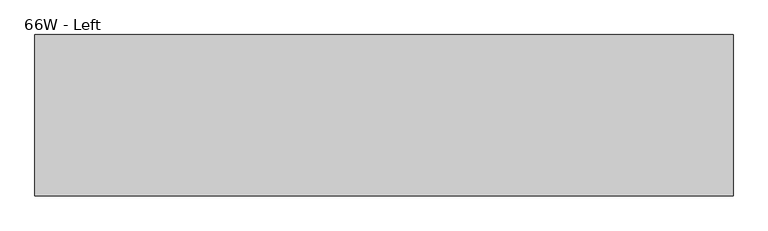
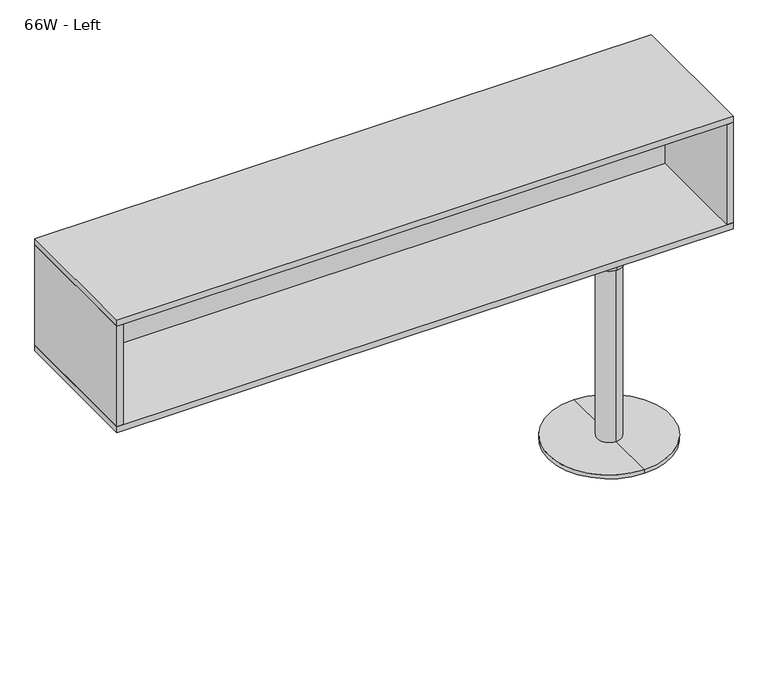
"""IFC4 building model written with IfcOpenShell, lengths in millimetres: furniture geometry, Steelcase - Duo Storage - For Use with Answer Junction - Tall Storage with Leg - Individual : 66W - Left."""

from ifc_helpers import new_model, si_unit, frame, origin, place, context, project, spatial, polyline, circle_curve, outline, extrude, source, transform, mapped, element, save
from ifc_brep_helpers import plane_surface, cylinder_surface, advanced_brep


def furniture_66w_left_0483f67a(model_context):
    return source(origin(), model_context, "Body", "SolidModel", [
        extrude(outline(polyline([(1960.8797287, 115.3159264), (20.32, 115.3159264), (20.32, 137.1599419), (1960.8797287, 137.1599419), (1960.8797287, 115.3159264)])), frame((0.0, 0.0, 779.2719806), z_axis=(0.0, 0.0, 1.0), x_axis=(1.0, 0.0, 0.0)), (0.0, 0.0, 1.0), 340.3600194),
        advanced_brep(
        [(1714.4997287, 196.1389534, 0.0), (1714.4997287, -196.1389534, 0.0), (1714.4997287, -196.1389534, 12.7), (1714.4997287, 196.1389534, 12.7), (1714.4997287, 0.0, 0.0), (1714.4997287, 41.4195882, 758.952), (1714.4997287, -41.4195882, 758.952), (1714.4997287, 0.0, 758.952), (1714.4997287, 41.4195882, 596.9), (1714.4997287, -41.4195882, 596.9), (1714.4997287, 38.1, 596.9), (1714.4997287, -38.1, 596.9), (1714.4997287, 38.1, 12.7), (1714.4997287, -38.1, 12.7)],
        [
            (0, 1, circle_curve(frame((1714.4997287, 0.0, 0.0), z_axis=(0.0, 0.0, 1.0), x_axis=(0.0, -1.0, 0.0)), 196.1389534)),
            (1, 2),
            (2, 3, circle_curve(frame((1714.4997287, 0.0, 12.7), z_axis=(0.0, 0.0, -1.0), x_axis=(0.0, -1.0, 0.0)), 196.1389534)),
            (3, 0),
            (1, 0, circle_curve(frame((1714.4997287, 0.0, 0.0), z_axis=(0.0, 0.0, 1.0), x_axis=(0.0, -1.0, 0.0)), 196.1389534)),
            (3, 2, circle_curve(frame((1714.4997287, 0.0, 12.7), z_axis=(0.0, 0.0, -1.0), x_axis=(0.0, -1.0, 0.0)), 196.1389534)),
            (4, 1),
            (0, 4),
            (5, 6, circle_curve(frame((1714.4997287, 0.0, 758.952), z_axis=(0.0, 0.0, 1.0), x_axis=(0.0, -1.0, 0.0)), 41.4195882)),
            (6, 7),
            (7, 5),
            (6, 5, circle_curve(frame((1714.4997287, 0.0, 758.952), z_axis=(0.0, 0.0, 1.0), x_axis=(0.0, -1.0, 0.0)), 41.4195882)),
            (8, 9, circle_curve(frame((1714.4997287, 0.0, 596.9), z_axis=(0.0, 0.0, 1.0), x_axis=(0.0, -1.0, 0.0)), 41.4195882)),
            (9, 6),
            (5, 8),
            (9, 8, circle_curve(frame((1714.4997287, 0.0, 596.9), z_axis=(0.0, 0.0, 1.0), x_axis=(0.0, -1.0, 0.0)), 41.4195882)),
            (10, 11, circle_curve(frame((1714.4997287, 0.0, 596.9), z_axis=(0.0, 0.0, 1.0), x_axis=(0.0, -1.0, 0.0)), 38.1)),
            (11, 9),
            (8, 10),
            (11, 10, circle_curve(frame((1714.4997287, 0.0, 596.9), z_axis=(0.0, 0.0, 1.0), x_axis=(0.0, -1.0, 0.0)), 38.1)),
            (12, 13, circle_curve(frame((1714.4997287, 0.0, 12.7), z_axis=(0.0, 0.0, 1.0), x_axis=(0.0, -1.0, 0.0)), 38.1)),
            (13, 11),
            (10, 12),
            (13, 12, circle_curve(frame((1714.4997287, 0.0, 12.7), z_axis=(0.0, 0.0, 1.0), x_axis=(0.0, -1.0, 0.0)), 38.1)),
            (2, 13),
            (12, 3),
        ],
        [
            cylinder_surface(frame((1714.4997287, 0.0, 581.025), z_axis=(0.0, 0.0, -1.0), x_axis=(0.0, -1.0, 0.0)), 196.1389534),
            plane_surface(frame((1714.4997287, 0.0, 0.0), z_axis=(0.0, 0.0, -1.0), x_axis=(0.0, -1.0, 0.0))),
            plane_surface(frame((1714.4997287, 0.0, 758.952), z_axis=(0.0, 0.0, 1.0), x_axis=(0.0, -1.0, 0.0))),
            cylinder_surface(frame((1714.4997287, 0.0, 581.025), z_axis=(0.0, 0.0, -1.0), x_axis=(0.0, -1.0, 0.0)), 41.4195882),
            plane_surface(frame((1714.4997287, 0.0, 596.9), z_axis=(0.0, 0.0, -1.0), x_axis=(0.0, -1.0, 0.0))),
            cylinder_surface(frame((1714.4997287, 0.0, 581.025), z_axis=(0.0, 0.0, -1.0), x_axis=(0.0, -1.0, 0.0)), 38.1),
            plane_surface(frame((1714.4997287, 0.0, 12.7), z_axis=(0.0, 0.0, 1.0), x_axis=(0.0, -1.0, 0.0))),
        ],
        [
            (0, [[1, 2, 3, 4]]),
            (0, [[5, -4, 6, -2]]),
            (1, [[7, -1, 8]]),
            (1, [[-8, -5, -7]]),
            (2, [[9, 10, 11]]),
            (2, [[12, -11, -10]]),
            (3, [[13, 14, -9, 15]]),
            (3, [[16, -15, -12, -14]]),
            (4, [[17, 18, -13, 19]]),
            (4, [[20, -19, -16, -18]]),
            (5, [[21, 22, -17, 23]]),
            (5, [[24, -23, -20, -22]]),
            (6, [[-3, 25, -21, 26]]),
            (6, [[-6, -26, -24, -25]]),
        ],
    ),
        extrude(outline(polyline([(1981.2, 228.6), (1981.2, -228.6), (1960.8797287, -228.6), (1960.8797287, 228.6), (1981.2, 228.6)])), frame((0.0, 0.0, 779.2719806), z_axis=(0.0, 0.0, 1.0), x_axis=(1.0, 0.0, 0.0)), (0.0, 0.0, 1.0), 340.3600194),
        extrude(outline(polyline([(20.32, 228.6), (20.32, -228.6), (0.0, -228.6), (0.0, 228.6), (20.32, 228.6)])), frame((0.0, 0.0, 779.2719806), z_axis=(0.0, 0.0, 1.0), x_axis=(1.0, 0.0, 0.0)), (0.0, 0.0, 1.0), 340.3600194),
        extrude(outline(polyline([(1981.2, 228.6), (1981.2, -228.6), (0.0, -228.6), (0.0, 228.6), (1981.2, 228.6)])), frame((0.0, 0.0, 1119.632), z_axis=(0.0, 0.0, 1.0), x_axis=(1.0, 0.0, 0.0)), (0.0, 0.0, 1.0), 20.32),
        extrude(outline(polyline([(1981.2, 228.6), (1981.2, -228.6), (0.0, -228.6), (0.0, 228.6), (1981.2, 228.6)])), frame((0.0, 0.0, 758.952), z_axis=(0.0, 0.0, 1.0), x_axis=(1.0, 0.0, 0.0)), (0.0, 0.0, 1.0), 20.3199806),
    ])


if __name__ == "__main__":
    model = new_model("IFC4")
    model_context = context("Model", 3, world=origin())
    ifc_project = project(units=[si_unit("LENGTHUNIT", "METRE", prefix="MILLI")], contexts=[model_context])
    site = spatial("IfcSite", under=ifc_project)
    building = spatial("IfcBuilding", under=site)
    placement = place(None, origin())
    furniture_66w_left_shape = furniture_66w_left_0483f67a(model_context)
    element("IfcFurniture", 1, ObjectType="Steelcase - Duo Storage - For Use with Answer Junction - Tall Storage with Leg - Individual : 66W - Left", at=placement, inside=building, context=model_context, shape_type="MappedRepresentation", body=[
        mapped(furniture_66w_left_shape, transform((0.0, 0.0, 0.0), x_axis=(1.0, 0.0, 0.0), y_axis=(0.0, 1.0, 0.0), z_axis=(0.0, 0.0, 1.0))),
    ])
    save(model, "model.ifc")
